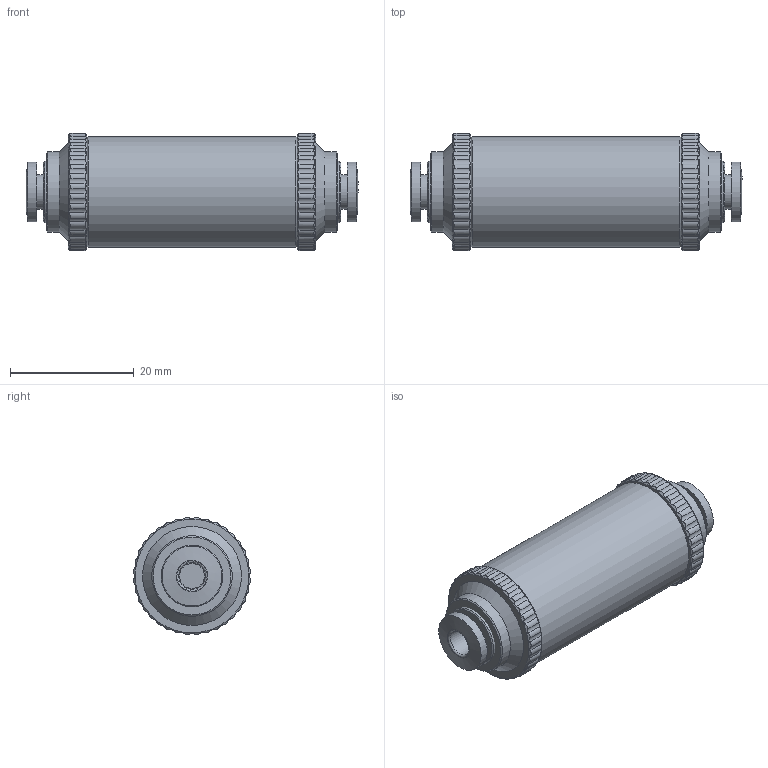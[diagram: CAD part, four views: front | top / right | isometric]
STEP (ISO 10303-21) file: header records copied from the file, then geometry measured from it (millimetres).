
FILE_DESCRIPTION(('STEP AP203'),'1');
FILE_NAME('BVFL-44_3D.stp','2024-09-30T06:16:10',(' '),(' '),'Spatial InterOp 3D',' ',' ');
FILE_SCHEMA(('CONFIG_CONTROL_DESIGN'));
Length unit declared in the file: millimetre
Products named in the file (4): BVFL-44; BVFL-44Yes44; BCAS04
Assembly tree (3 placements, depth 2):
  BVFL-44
    BVFL-44Yes44
    BCAS04
    BCAS04
Bounding box: 53.7 x 18.94 x 18.94 mm (x, y, z)
Volume: 12122.4 mm3; surface area: 4730.3 mm2
Topology: 3 solids, 5 shells, 221 faces, 558 edges, 365 vertices
Faces by surface type: cylinder 169, plane 28, cone 18, torus 6
Full cylindrical faces by diameter (mm): 4 x4, 4.3 x2, 5.6 x2, 8.55 x4, 8.7 x2, 9 x4, 9.7 x2, 10 x2, 13 x2, 18 x1
Entity records: 8750 total; most frequent: CARTESIAN_POINT 3965, ORIENTED_EDGE 1008, DIRECTION 738, EDGE_CURVE 504, VERTEX_POINT 360, AXIS2_PLACEMENT_3D 297, EDGE_LOOP 292, B_SPLINE_CURVE_WITH_KNOTS 288
